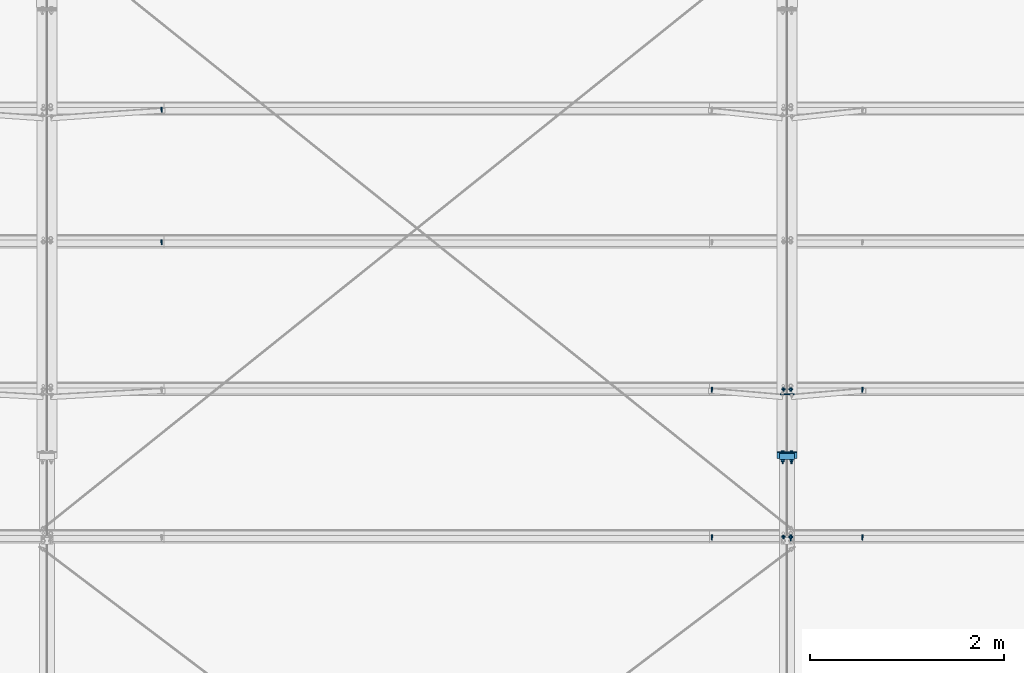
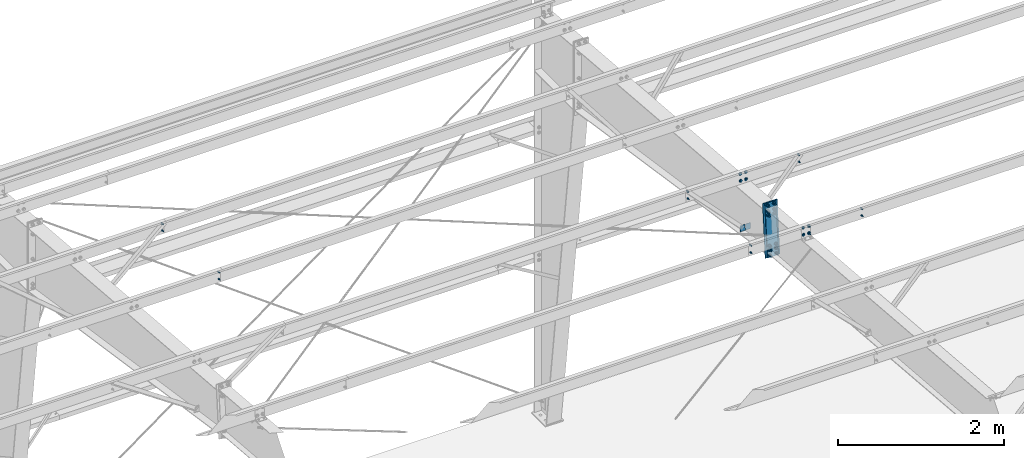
# One storey, part 90 of 185: 14 mechanical fasteners, 4 discrete accessories, 9 elements without a shape of their own.
"""IFC2X3 building model written with IfcOpenShell, lengths in millimetres."""

from ifc_helpers import new_model, si_unit, frame, origin_with_axes, origin_2d_with_axis, place, context, subcontext, project, spatial, polyline, rectangle, circle, outline, extrude, source, transform, mapped, material, type_object, element, aggregate, save


model = new_model("IFC2X3")

# Units and contexts
model_context = context("Model", 3, precision=1e-05, world=origin_with_axes())
body_context = subcontext(model_context, "Body", "Model", "MODEL_VIEW")
ifc_project = project(units=[si_unit("LENGTHUNIT", "METRE", prefix="MILLI"), si_unit("AREAUNIT", "SQUARE_METRE"), si_unit("VOLUMEUNIT", "CUBIC_METRE"), si_unit("MASSUNIT", "GRAM", prefix="KILO"), si_unit("TIMEUNIT", "SECOND"), si_unit("PLANEANGLEUNIT", "RADIAN"), si_unit("SOLIDANGLEUNIT", "STERADIAN"), si_unit("THERMODYNAMICTEMPERATUREUNIT", "DEGREE_CELSIUS"), si_unit("LUMINOUSINTENSITYUNIT", "LUMEN")], contexts=[model_context])

# Site, building, storey
site_placement = place(None, origin_with_axes())
site = spatial("IfcSite", under=ifc_project, at=site_placement, Name="Undefined", CompositionType="ELEMENT")
building_placement = place(site_placement, origin_with_axes())
building = spatial("IfcBuilding", under=site, at=building_placement, Name="Undefined", CompositionType="ELEMENT")
storey_placement = place(building_placement, origin_with_axes())
storey = spatial("IfcBuildingStorey", under=building, at=storey_placement, Name="Undefined", CompositionType="ELEMENT", Elevation=0.0)

# Assembly, mechanical fastener
assembly_1_placement = place(storey_placement, origin_with_axes())
assembly_1 = element("IfcElementAssembly", 1, at=assembly_1_placement, inside=storey, Name="Steel Assembly", AssemblyPlace="NOTDEFINED", PredefinedType="RIGID_FRAME")
ifc_material_1 = material(Name="Undefined")
discrete_accessory_type_1 = type_object("IfcDiscreteAccessoryType", Name="Bolt assembly")
shared_shape_1 = source(origin_with_axes(), body_context, "Body", "SweptSolid", [
    extrude(circle(Radius=7.14374971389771, at=origin_2d_with_axis()), frame((0.0, -1.59000001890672, 0.0), z_axis=(0.0, 1.0, 0.0), x_axis=(1.0, 0.0, 0.0)), (0.0, 0.0, 1.0), 3.3),
    extrude(circle(Radius=13.4937496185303, at=origin_2d_with_axis()), frame((0.0, -5.5587500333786, 0.0), z_axis=(0.0, 1.0, 0.0), x_axis=(1.0, 0.0, 0.0)), (0.0, 0.0, 1.0), 4.0),
    extrude(circle(Radius=22.2250003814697, at=origin_2d_with_axis()), frame((0.0, 1.5900000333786, 0.0), z_axis=(0.0, 1.0, 0.0), x_axis=(1.0, 0.0, 0.0)), (0.0, 0.0, 1.0), 7.9),
    extrude(outline(polyline([(12.8316099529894, 0.0), (6.4158049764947, 11.1125001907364), (-6.4158049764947, 11.1125001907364), (-12.8316099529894, 0.0), (-6.4158049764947, -11.1125001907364), (6.4158049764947, -11.1125001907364), (12.8316099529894, 0.0)])), frame((0.0, 9.5275000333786, 0.0), z_axis=(0.0, 1.0, 0.0), x_axis=(1.0, 0.0, 0.0)), (0.0, 0.0, 1.0), 12.3),
])
mechanical_fastener_1_placement = place(assembly_1_placement, frame((14820.9, 26932.6781611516, 6467.63407038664), z_axis=(-1.0, 0.0, 0.0), x_axis=(0.0, -0.0830454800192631, -0.996545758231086)))
mechanical_fastener_1 = element("IfcMechanicalFastener", 2, at=mechanical_fastener_1_placement, type_object=discrete_accessory_type_1, material=ifc_material_1, Name="Bolt assembly", NominalDiameter=12.6999998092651, NominalLength=38.0999984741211, context=body_context, shape_type="MappedRepresentation", body=[
    mapped(shared_shape_1, transform((0.0, 0.0, 0.0))),
    mapped(shared_shape_1, transform((101.599998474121, 0.0, 0.0))),
])
aggregate(assembly_1, [mechanical_fastener_1])

assembly_2_placement = place(storey_placement, origin_with_axes())
assembly_2 = element("IfcElementAssembly", 3, at=assembly_2_placement, inside=storey, Name="Steel Assembly", AssemblyPlace="NOTDEFINED", PredefinedType="RIGID_FRAME")
mechanical_fastener_2_placement = place(assembly_2_placement, frame((14897.1, 26932.6781611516, 6467.63407038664), z_axis=(-1.0, 0.0, 0.0), x_axis=(0.0, -0.0830454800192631, -0.996545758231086)))
mechanical_fastener_2 = element("IfcMechanicalFastener", 4, at=mechanical_fastener_2_placement, type_object=discrete_accessory_type_1, material=ifc_material_1, Name="Bolt assembly", NominalDiameter=12.6999998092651, NominalLength=38.0999984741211, context=body_context, shape_type="MappedRepresentation", body=[
    mapped(shared_shape_1, transform((0.0, 0.0, 0.0))),
    mapped(shared_shape_1, transform((101.599998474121, 0.0, 0.0))),
])

assembly_3_placement = place(storey_placement, origin_with_axes())
assembly_3 = element("IfcElementAssembly", 5, at=assembly_3_placement, inside=storey, Name="Steel Assembly", AssemblyPlace="NOTDEFINED", PredefinedType="RIGID_FRAME")
mechanical_fastener_3_placement = place(assembly_3_placement, frame((14820.9, 25413.9424255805, 6594.19538193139), z_axis=(-1.0, 0.0, 0.0), x_axis=(0.0, -0.0830454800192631, -0.996545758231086)))
mechanical_fastener_3 = element("IfcMechanicalFastener", 6, at=mechanical_fastener_3_placement, type_object=discrete_accessory_type_1, material=ifc_material_1, Name="Bolt assembly", NominalDiameter=12.6999998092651, NominalLength=38.0999984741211, context=body_context, shape_type="MappedRepresentation", body=[
    mapped(shared_shape_1, transform((0.0, 0.0, 0.0))),
    mapped(shared_shape_1, transform((101.599998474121, 0.0, 0.0))),
])
aggregate(assembly_3, [mechanical_fastener_3])

assembly_4_placement = place(storey_placement, origin_with_axes())
assembly_4 = element("IfcElementAssembly", 7, at=assembly_4_placement, inside=storey, Name="Steel Assembly", AssemblyPlace="NOTDEFINED", PredefinedType="RIGID_FRAME")
mechanical_fastener_4_placement = place(assembly_4_placement, frame((14897.1, 25413.9424256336, 6594.19538269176), z_axis=(-1.0, 0.0, 0.0), x_axis=(0.0, -0.0830454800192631, -0.996545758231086)))
mechanical_fastener_4 = element("IfcMechanicalFastener", 8, at=mechanical_fastener_4_placement, type_object=discrete_accessory_type_1, material=ifc_material_1, Name="Bolt assembly", NominalDiameter=12.6999998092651, NominalLength=38.0999984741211, context=body_context, shape_type="MappedRepresentation", body=[
    mapped(shared_shape_1, transform((0.0, 0.0, 0.0))),
    mapped(shared_shape_1, transform((101.599998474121, 0.0, 0.0))),
])

# Assembly, discrete accessories
assembly_5_placement = place(storey_placement, origin_with_axes())
assembly_5 = element("IfcElementAssembly", 9, at=assembly_5_placement, inside=storey, Name="Steel Assembly", AssemblyPlace="NOTDEFINED", PredefinedType="RIGID_FRAME")
ifc_material_2 = material(Name="STEEL/55")
discrete_accessory_type_2 = type_object("IfcDiscreteAccessoryType", Name="FLANGE BRACE FLIP")
discrete_accessory_1_placement = place(assembly_5_placement, frame((14856.619, 26870.4225230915, 5699.99936980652), z_axis=(0.0, 0.0830454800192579, 0.996545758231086), x_axis=(-1.0, 0.0, 0.0)))
discrete_accessory_1 = element("IfcDiscreteAccessory", 10, at=discrete_accessory_1_placement, type_object=discrete_accessory_type_2, material=ifc_material_2, Name="FLANGE BRACE FLIP", ObjectType="PL1/8\"X2 3/4\"", context=body_context, shape_type="SweptSolid", body=[
    extrude(rectangle(XDim=3.416, YDim=85.725, at=origin_2d_with_axis()), frame((69.8499999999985, 0.0, 0.0), z_axis=(-1.0, 0.0, 0.0), x_axis=(0.0, -1.0, 0.0)), (0.0, 0.0, 1.0), 69.9),
])
discrete_accessory_2_placement = place(assembly_5_placement, frame((14861.381, 26870.4225230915, 5699.99936980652), z_axis=(0.0, 0.0830454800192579, 0.996545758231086), x_axis=(1.0, 0.0, 0.0)))
discrete_accessory_2 = element("IfcDiscreteAccessory", 11, at=discrete_accessory_2_placement, type_object=discrete_accessory_type_2, material=ifc_material_2, Name="FLANGE BRACE FLIP", ObjectType="PL1/8\"X2 3/4\"", context=body_context, shape_type="SweptSolid", body=[
    extrude(rectangle(XDim=3.416, YDim=85.725, at=origin_2d_with_axis()), frame((69.8499999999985, 0.0, 0.0), z_axis=(-1.0, 0.0, 0.0), x_axis=(0.0, -1.0, 0.0)), (0.0, 0.0, 1.0), 69.9),
])

# Assembly, mechanical fasteners
assembly_6_placement = place(storey_placement, origin_with_axes())
assembly_6 = element("IfcElementAssembly", 12, at=assembly_6_placement, inside=storey, Name="Steel Assembly", AssemblyPlace="NOTDEFINED", PredefinedType="RIGID_FRAME")
shared_shape_2 = source(origin_with_axes(), body_context, "Body", "SweptSolid", [
    extrude(circle(Radius=7.14374971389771, at=origin_2d_with_axis()), frame((0.0, 0.0, 0.0), z_axis=(0.0, 1.0, 0.0), x_axis=(1.0, 0.0, 0.0)), (0.0, 0.0, 1.0), 4.9),
    extrude(outline(polyline([(12.8316099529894, 0.0), (6.4158049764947, 11.1125001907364), (-6.4158049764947, 11.1125001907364), (-12.8316099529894, 0.0), (-6.4158049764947, -11.1125001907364), (6.4158049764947, -11.1125001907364), (12.8316099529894, 0.0)])), frame((0.0, 4.76000382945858, 0.0), z_axis=(0.0, 1.0, 0.0), x_axis=(1.0, 0.0, 0.0)), (0.0, 0.0, 1.0), 12.3),
])
mechanical_fastener_5_placement = place(assembly_6_placement, frame((14820.9, 25413.9424255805, 6594.19538193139), z_axis=(-1.0, 0.0, 0.0), x_axis=(0.0, -0.0830454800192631, -0.996545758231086)))
mechanical_fastener_5 = element("IfcMechanicalFastener", 13, at=mechanical_fastener_5_placement, type_object=discrete_accessory_type_1, material=ifc_material_1, Name="Bolt assembly", NominalDiameter=12.6999998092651, NominalLength=50.7999992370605, context=body_context, shape_type="MappedRepresentation", body=[
    mapped(shared_shape_2, transform((0.0, 0.0, 0.0))),
    mapped(shared_shape_2, transform((101.599998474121, 0.0, 0.0))),
])
shared_shape_3 = source(origin_with_axes(), body_context, "Body", "SweptSolid", [
    extrude(circle(Radius=7.14374971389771, at=origin_2d_with_axis()), frame((0.0, 0.0, 0.0), z_axis=(0.0, 1.0, 0.0), x_axis=(1.0, 0.0, 0.0)), (0.0, 0.0, 1.0), 4.9),
    extrude(outline(polyline([(12.8316099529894, 0.0), (6.4158049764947, 11.1125001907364), (-6.4158049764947, 11.1125001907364), (-12.8316099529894, 0.0), (-6.4158049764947, -11.1125001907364), (6.4158049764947, -11.1125001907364), (12.8316099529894, 0.0)])), frame((0.0, -11.9062498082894, 0.0), z_axis=(0.0, 1.0, 0.0), x_axis=(1.0, 0.0, 0.0)), (0.0, 0.0, 1.0), 7.9),
    extrude(circle(Radius=6.34999990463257, at=origin_2d_with_axis()), frame((0.0, -3.96874999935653, 0.0), z_axis=(0.0, 1.0, 0.0), x_axis=(1.0, 0.0, 0.0)), (0.0, 0.0, 1.0), 50.8),
    extrude(circle(Radius=13.4937496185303, at=origin_2d_with_axis()), frame((0.0, -3.96874999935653, 0.0), z_axis=(0.0, 1.0, 0.0), x_axis=(1.0, 0.0, 0.0)), (0.0, 0.0, 1.0), 4.0),
    extrude(circle(Radius=22.2250003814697, at=origin_2d_with_axis()), frame((0.0, 4.76000382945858, 0.0), z_axis=(0.0, 1.0, 0.0), x_axis=(1.0, 0.0, 0.0)), (0.0, 0.0, 1.0), 7.9),
    extrude(outline(polyline([(12.8316099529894, 0.0), (6.4158049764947, 11.1125001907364), (-6.4158049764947, 11.1125001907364), (-12.8316099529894, 0.0), (-6.4158049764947, -11.1125001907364), (6.4158049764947, -11.1125001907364), (12.8316099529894, 0.0)])), frame((0.0, 12.6975038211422, 0.0), z_axis=(0.0, 1.0, 0.0), x_axis=(1.0, 0.0, 0.0)), (0.0, 0.0, 1.0), 12.3),
])
mechanical_fastener_6_placement = place(assembly_6_placement, frame((14897.1, 25413.9424256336, 6594.19538269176), z_axis=(-1.0, 0.0, 0.0), x_axis=(0.0, -0.0830454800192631, -0.996545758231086)))
mechanical_fastener_6 = element("IfcMechanicalFastener", 14, at=mechanical_fastener_6_placement, type_object=discrete_accessory_type_1, material=ifc_material_1, Name="Bolt assembly", NominalDiameter=12.6999998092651, NominalLength=50.7999992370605, context=body_context, shape_type="MappedRepresentation", body=[
    mapped(shared_shape_3, transform((0.0, 0.0, 0.0))),
    mapped(shared_shape_3, transform((101.599998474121, 0.0, 0.0))),
])
aggregate(assembly_6, [mechanical_fastener_5, mechanical_fastener_6])

# Assembly, mechanical fastener
assembly_7_placement = place(storey_placement, origin_with_axes())
assembly_7 = element("IfcElementAssembly", 15, at=assembly_7_placement, inside=storey, Name="Steel Assembly", AssemblyPlace="NOTDEFINED", PredefinedType="RIGID_FRAME")
shared_shape_4 = source(origin_with_axes(), body_context, "Body", "SweptSolid", [
    extrude(circle(Radius=7.14374971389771, at=origin_2d_with_axis()), frame((0.0, -1.4900000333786, 0.0), z_axis=(0.0, 1.0, 0.0), x_axis=(1.0, 0.0, 0.0)), (0.0, 0.0, 1.0), 3.2),
    extrude(circle(Radius=7.14374971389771, at=origin_2d_with_axis()), frame((0.0, -1.4900000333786, 0.0), z_axis=(0.0, 1.0, 0.0), x_axis=(1.0, 0.0, 0.0)), (0.0, 0.0, 1.0), 3.2),
    extrude(outline(polyline([(10.9985221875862, 0.0), (5.4992610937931, 9.52499961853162), (-5.4992610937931, 9.52499961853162), (-10.9985221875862, 0.0), (-5.4992610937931, -9.52499961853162), (5.4992610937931, -9.52499961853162), (10.9985221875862, 0.0)])), frame((0.0, -11.1149996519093, 0.0), z_axis=(0.0, 1.0, 0.0), x_axis=(1.0, 0.0, 0.0)), (0.0, 0.0, 1.0), 9.5),
    extrude(circle(Radius=6.34999990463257, at=origin_2d_with_axis()), frame((0.0, -1.59000001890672, 0.0), z_axis=(0.0, 1.0, 0.0), x_axis=(1.0, 0.0, 0.0)), (0.0, 0.0, 1.0), 38.1),
    extrude(outline(polyline([(12.8316099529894, 0.0), (6.4158049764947, 11.1125001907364), (-6.4158049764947, 11.1125001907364), (-12.8316099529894, 0.0), (-6.4158049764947, -11.1125001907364), (6.4158049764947, -11.1125001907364), (12.8316099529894, 0.0)])), frame((0.0, 1.5900000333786, 0.0), z_axis=(0.0, 1.0, 0.0), x_axis=(1.0, 0.0, 0.0)), (0.0, 0.0, 1.0), 12.3),
])
mechanical_fastener_7_placement = place(assembly_7_placement, frame((8420.1, 29818.2760586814, 6227.1675784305), z_axis=(-1.0, 0.0, 0.0), x_axis=(0.0, -0.0830454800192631, -0.996545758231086)))
mechanical_fastener_7 = element("IfcMechanicalFastener", 16, at=mechanical_fastener_7_placement, type_object=discrete_accessory_type_1, material=ifc_material_1, Name="Bolt assembly", NominalDiameter=12.6999998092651, NominalLength=38.0999984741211, context=body_context, shape_type="MappedRepresentation", body=[
    mapped(shared_shape_4, transform((0.0, 0.0, 0.0))),
    mapped(shared_shape_4, transform((101.599998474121, 0.0, 0.0))),
])
aggregate(assembly_7, [mechanical_fastener_7])

assembly_8_placement = place(storey_placement, origin_with_axes())
assembly_8 = element("IfcElementAssembly", 17, at=assembly_8_placement, inside=storey, Name="Steel Assembly", AssemblyPlace="NOTDEFINED", PredefinedType="RIGID_FRAME")
mechanical_fastener_8_placement = place(assembly_8_placement, frame((8420.1, 28451.4138966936, 6341.07275883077), z_axis=(-1.0, 0.0, 0.0), x_axis=(0.0, -0.0830454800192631, -0.996545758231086)))
mechanical_fastener_8 = element("IfcMechanicalFastener", 18, at=mechanical_fastener_8_placement, type_object=discrete_accessory_type_1, material=ifc_material_1, Name="Bolt assembly", NominalDiameter=12.6999998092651, NominalLength=38.0999984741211, context=body_context, shape_type="MappedRepresentation", body=[
    mapped(shared_shape_4, transform((0.0, 0.0, 0.0))),
    mapped(shared_shape_4, transform((101.599998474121, 0.0, 0.0))),
])
aggregate(assembly_8, [mechanical_fastener_8])

# Mechanical fastener
mechanical_fastener_9_placement = place(assembly_2_placement, frame((14084.3, 26932.6781611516, 6467.63407038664), z_axis=(-1.0, 0.0, 0.0), x_axis=(0.0, -0.0830454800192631, -0.996545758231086)))
mechanical_fastener_9 = element("IfcMechanicalFastener", 19, at=mechanical_fastener_9_placement, type_object=discrete_accessory_type_1, material=ifc_material_1, Name="Bolt assembly", NominalDiameter=12.6999998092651, NominalLength=38.0999984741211, context=body_context, shape_type="MappedRepresentation", body=[
    mapped(shared_shape_4, transform((0.0, 0.0, 0.0))),
    mapped(shared_shape_4, transform((101.599998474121, 0.0, 0.0))),
])

mechanical_fastener_10_placement = place(assembly_2_placement, frame((15633.7, 26932.6781611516, 6467.63407038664), z_axis=(-1.0, 0.0, 0.0), x_axis=(0.0, -0.0830454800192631, -0.996545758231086)))
mechanical_fastener_10 = element("IfcMechanicalFastener", 20, at=mechanical_fastener_10_placement, type_object=discrete_accessory_type_1, material=ifc_material_1, Name="Bolt assembly", NominalDiameter=12.6999998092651, NominalLength=38.0999984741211, context=body_context, shape_type="MappedRepresentation", body=[
    mapped(shared_shape_4, transform((0.0, 0.0, 0.0))),
    mapped(shared_shape_4, transform((101.599998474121, 0.0, 0.0))),
])

aggregate(assembly_2, [mechanical_fastener_2, mechanical_fastener_9, mechanical_fastener_10])

mechanical_fastener_11_placement = place(assembly_4_placement, frame((14084.3, 25413.9424255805, 6594.1953819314), z_axis=(-1.0, 0.0, 0.0), x_axis=(0.0, -0.0830454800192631, -0.996545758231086)))
mechanical_fastener_11 = element("IfcMechanicalFastener", 21, at=mechanical_fastener_11_placement, type_object=discrete_accessory_type_1, material=ifc_material_1, Name="Bolt assembly", NominalDiameter=12.6999998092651, NominalLength=38.0999984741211, context=body_context, shape_type="MappedRepresentation", body=[
    mapped(shared_shape_4, transform((0.0, 0.0, 0.0))),
    mapped(shared_shape_4, transform((101.599998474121, 0.0, 0.0))),
])

mechanical_fastener_12_placement = place(assembly_4_placement, frame((15633.7, 25413.9424255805, 6594.19538193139), z_axis=(-1.0, 0.0, 0.0), x_axis=(0.0, -0.0830454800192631, -0.996545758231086)))
mechanical_fastener_12 = element("IfcMechanicalFastener", 22, at=mechanical_fastener_12_placement, type_object=discrete_accessory_type_1, material=ifc_material_1, Name="Bolt assembly", NominalDiameter=12.6999998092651, NominalLength=38.0999984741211, context=body_context, shape_type="MappedRepresentation", body=[
    mapped(shared_shape_4, transform((0.0, 0.0, 0.0))),
    mapped(shared_shape_4, transform((101.599998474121, 0.0, 0.0))),
])

aggregate(assembly_4, [mechanical_fastener_4, mechanical_fastener_11, mechanical_fastener_12])

# Assembly, discrete accessory
assembly_9_placement = place(storey_placement, origin_with_axes())
assembly_9 = element("IfcElementAssembly", 23, at=assembly_9_placement, inside=storey, Name="Steel Assembly", AssemblyPlace="NOTDEFINED", PredefinedType="RIGID_FRAME")
discrete_accessory_type_3 = type_object("IfcDiscreteAccessoryType", Name="Start Splice Plate")
discrete_accessory_3_placement = place(assembly_9_placement, frame((14859.0, 26267.033405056, 6441.84859146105), z_axis=(-1.0, 0.0, 0.0), x_axis=(0.0, -0.0830454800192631, -0.996545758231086)))
discrete_accessory_3 = element("IfcDiscreteAccessory", 24, at=discrete_accessory_3_placement, type_object=discrete_accessory_type_3, material=ifc_material_2, Name="Start Splice Plate", ObjectType="PL3/8\"X6\"", context=body_context, shape_type="SweptSolid", body=[
    extrude(rectangle(XDim=9.652, YDim=152.4, at=origin_2d_with_axis()), frame((768.349996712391, 0.0, 0.0), z_axis=(-1.0, 0.0, 0.0), x_axis=(0.0, -1.0, 0.0)), (0.0, 0.0, 1.0), 768.3),
])
aggregate(assembly_9, [discrete_accessory_3])

# Discrete accessory
discrete_accessory_type_4 = type_object("IfcDiscreteAccessoryType", Name="End Splice Plate")
discrete_accessory_4_placement = place(assembly_5_placement, frame((14859.0, 26278.1708004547, 6440.92047408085), z_axis=(-1.0, 0.0, 0.0), x_axis=(0.0, -0.0830454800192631, -0.996545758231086)))
discrete_accessory_4 = element("IfcDiscreteAccessory", 25, at=discrete_accessory_4_placement, type_object=discrete_accessory_type_4, material=ifc_material_2, Name="End Splice Plate", ObjectType="FL1/2\"X8\"", context=body_context, shape_type="SweptSolid", body=[
    extrude(rectangle(XDim=12.7, YDim=203.2, at=origin_2d_with_axis()), frame((768.349996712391, 0.0, 0.0), z_axis=(-1.0, 0.0, 0.0), x_axis=(0.0, -1.0, 0.0)), (0.0, 0.0, 1.0), 768.3),
])

# Mechanical fastener
shared_shape_5 = source(origin_with_axes(), body_context, "Body", "SweptSolid", [
    extrude(circle(Radius=10.3187494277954, at=origin_2d_with_axis()), frame((0.0, -0.1, 0.0), z_axis=(0.0, 1.0, 0.0), x_axis=(1.0, 0.0, 0.0)), (0.0, 0.0, 1.0), 9.8),
    extrude(circle(Radius=10.3187494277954, at=origin_2d_with_axis()), frame((0.0, -12.5999999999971, 0.0), z_axis=(0.0, 1.0, 0.0), x_axis=(1.0, 0.0, 0.0)), (0.0, 0.0, 1.0), 12.7),
    extrude(outline(polyline([(18.3308710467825, 0.0), (9.16543552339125, 15.8750000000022), (-9.16543552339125, 15.8750000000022), (-18.3308710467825, 0.0), (-9.16543552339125, -15.8750000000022), (9.16543552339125, -15.8750000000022), (18.3308710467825, 0.0)])), frame((0.0, -24.6062499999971, 0.0), z_axis=(0.0, 1.0, 0.0), x_axis=(1.0, 0.0, 0.0)), (0.0, 0.0, 1.0), 11.9),
    extrude(circle(Radius=9.52499961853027, at=origin_2d_with_axis()), frame((0.0, -12.6999999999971, 0.0), z_axis=(0.0, 1.0, 0.0), x_axis=(1.0, 0.0, 0.0)), (0.0, 0.0, 1.0), 69.8),
    extrude(circle(Radius=22.2250003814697, at=origin_2d_with_axis()), frame((0.0, 9.65200009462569, 0.0), z_axis=(0.0, 1.0, 0.0), x_axis=(1.0, 0.0, 0.0)), (0.0, 0.0, 1.0), 7.9),
    extrude(outline(polyline([(18.3308710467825, 0.0), (9.16543552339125, 15.8750000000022), (-9.16543552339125, 15.8750000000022), (-18.3308710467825, 0.0), (-9.16543552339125, -15.8750000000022), (9.16543552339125, -15.8750000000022), (18.3308710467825, 0.0)])), frame((0.0, 17.5895000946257, 0.0), z_axis=(0.0, 1.0, 0.0), x_axis=(1.0, 0.0, 0.0)), (0.0, 0.0, 1.0), 19.0),
])
mechanical_fastener_13_placement = place(assembly_5_placement, frame((14859.0, 26210.6714344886, 5707.39220954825), z_axis=(1.0, 0.0, 0.0), x_axis=(0.0, 0.0830454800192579, 0.996545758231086)))
mechanical_fastener_13 = element("IfcMechanicalFastener", 26, at=mechanical_fastener_13_placement, type_object=discrete_accessory_type_1, material=ifc_material_1, Name="Bolt assembly", NominalDiameter=19.0499992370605, NominalLength=69.8499984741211, context=body_context, shape_type="MappedRepresentation", body=[
    mapped(shared_shape_5, transform((0.0, 0.0, -44.4500007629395))),
    mapped(shared_shape_5, transform((79.3750000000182, 6.18456397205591e-11, -44.4500007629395))),
    mapped(shared_shape_5, transform((136.524993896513, 1.0550138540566e-10, -44.4500007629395))),
    mapped(shared_shape_5, transform((0.0, 0.0, 44.4500007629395))),
    mapped(shared_shape_5, transform((79.3750000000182, 6.18456397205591e-11, 44.4500007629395))),
    mapped(shared_shape_5, transform((136.524993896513, 1.0550138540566e-10, 44.4500007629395))),
])

mechanical_fastener_14_placement = place(assembly_5_placement, frame((14859.0, 26269.2060410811, 6409.80748723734), z_axis=(-1.0, 0.0, 0.0), x_axis=(0.0, -0.0830454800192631, -0.996545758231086)))
mechanical_fastener_14 = element("IfcMechanicalFastener", 27, at=mechanical_fastener_14_placement, type_object=discrete_accessory_type_1, material=ifc_material_1, Name="Bolt assembly", NominalDiameter=19.0499992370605, NominalLength=69.8499984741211, context=body_context, shape_type="MappedRepresentation", body=[
    mapped(shared_shape_5, transform((0.0, 0.0, -44.4500007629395))),
    mapped(shared_shape_5, transform((79.3750000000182, 6.18456397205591e-11, -44.4500007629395))),
    mapped(shared_shape_5, transform((136.524993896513, 1.0550138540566e-10, -44.4500007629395))),
    mapped(shared_shape_5, transform((0.0, 0.0, 44.4500007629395))),
    mapped(shared_shape_5, transform((79.3750000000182, 6.18456397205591e-11, 44.4500007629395))),
    mapped(shared_shape_5, transform((136.524993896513, 1.0550138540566e-10, 44.4500007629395))),
])

aggregate(assembly_5, [discrete_accessory_1, discrete_accessory_2, mechanical_fastener_13, mechanical_fastener_14, discrete_accessory_4])

save(model, "model.ifc")
